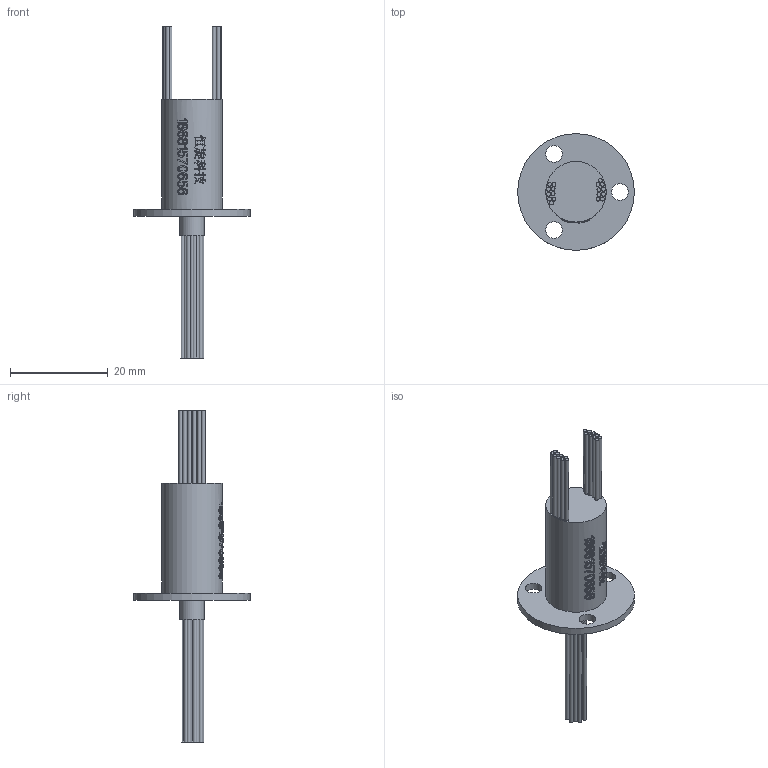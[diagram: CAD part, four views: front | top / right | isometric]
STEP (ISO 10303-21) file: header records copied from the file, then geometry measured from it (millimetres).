
FILE_DESCRIPTION(/* description */ (''),/* implementation_level */ '2;1');
FILE_NAME(/* name */ 'HM012-18.stp',/* time_stamp */ '2025-09-05T08:23:23+08:00',/* author */ (''),/* organization */ (''),/* preprocessor_version */ 'ST-DEVELOPER v16.7',/* originating_system */ 'SIEMENS PLM Software NX 12.0',/* authorisation */ '');
FILE_SCHEMA (('AUTOMOTIVE_DESIGN { 1 0 10303 214 3 1 1 1 }'));
Length unit declared in the file: millimetre
Products named in the file (1): Admi30D0F06639yp
Bounding box: 23.9 x 23.9 x 68 mm (x, y, z)
Volume: 3805.5 mm3; surface area: 3855.3 mm2
Topology: 1 solids, 1 shells, 613 faces, 1607 edges, 1072 vertices
Faces by surface type: extrusion 311, plane 222, cylinder 54, bspline 26
Full cylindrical faces by diameter (mm): 0.8 x37, 3.4 x3, 5 x1, 12.4 x1, 23.9 x1
Entity records: 24432 total; most frequent: CARTESIAN_POINT 11762, ORIENTED_EDGE 3124, EDGE_CURVE 1562, B_SPLINE_CURVE_WITH_KNOTS 1557, DIRECTION 1399, VERTEX_POINT 1070, EDGE_LOOP 738, ADVANCED_FACE 613
